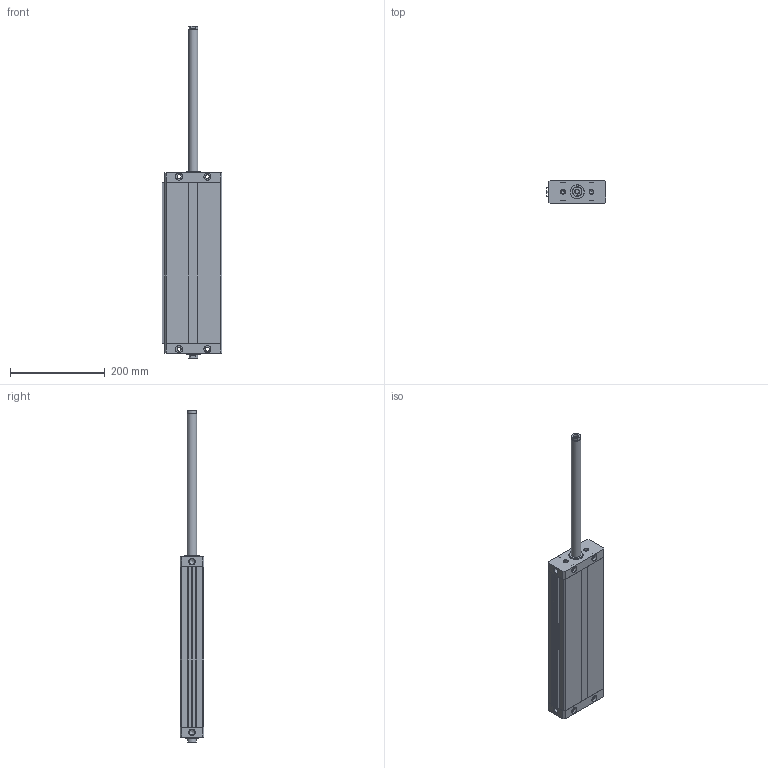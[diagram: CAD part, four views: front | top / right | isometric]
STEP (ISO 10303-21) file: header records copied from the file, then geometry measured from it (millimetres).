
FILE_DESCRIPTION((''),'2;1');
FILE_NAME('I:\Area Tecnica\Disegni\VARIE-3D\Componenti\1370 - CPO\1370_##_0000_03\1370_63_0300_03-01.iam.step','2010-12-16T11:02:01',(''),(''),'Autodesk Inventor 2011','Autodesk Inventor 2011','');
FILE_SCHEMA(('AUTOMOTIVE_DESIGN { 1 0 10303 214 1 1 1 1 }'));
Length unit declared in the file: millimetre
Products named in the file (5): 1370_63_0300_03-01; 1370_05_63_0000; 1370_06_63_0300; 1370_08_63_0000; 1370_3_63_0300
Assembly tree (4 placements, depth 2):
  1370_63_0300_03-01
    1370_05_63_0000
    1370_06_63_0300
    1370_08_63_0000
    1370_3_63_0300
Bounding box: 126.75 x 50 x 702 mm (x, y, z)
Volume: 1463208.5 mm3; surface area: 327018.2 mm2
Topology: 4 solids, 4 shells, 164 faces, 398 edges, 252 vertices
Faces by surface type: plane 94, cylinder 50, cone 20
Full cylindrical faces by diameter (mm): 8.5 x20, 10.3 x2, 11.75 x2, 15 x8, 20 x4, 30 x2
Entity records: 4722 total; most frequent: DIRECTION 794, CARTESIAN_POINT 737, ORIENTED_EDGE 652, EDGE_CURVE 326, AXIS2_PLACEMENT_3D 295, EDGE_LOOP 254, VERTEX_POINT 238, VECTOR 204
